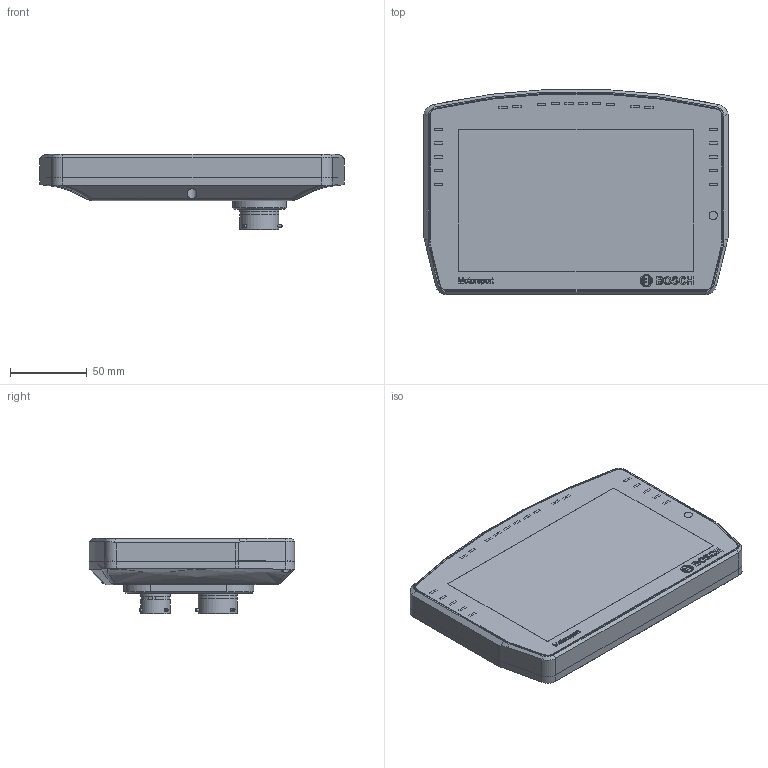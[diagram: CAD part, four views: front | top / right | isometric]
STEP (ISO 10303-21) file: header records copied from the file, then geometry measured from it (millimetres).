
FILE_DESCRIPTION(/* description */ (''),/* implementation_level */ '2;1');
FILE_NAME(/* name */ 'F02UA02659-02.stp',/* time_stamp */ '2021-10-04T11:39:07+02:00',/* author */ (''),/* organization */ (''),/* preprocessor_version */ 'ST-DEVELOPER v16.7',/* originating_system */ 'SIEMENS PLM Software NX 1946',/* authorisation */ '');
FILE_SCHEMA (('AUTOMOTIVE_DESIGN { 1 0 10303 214 3 1 1 1 }'));
Products named in the file (15): f02ue01551_01.001-CONNECTOR; f02ue01659_01.001-CONNECTOR; F02U004605-03.001-FRONT DISC; f02u004318_01.002-DISPLAY FRAME; f02u001067_01.001-SEALING; f02u001065_01.001-SEALING; f02u000950_01.001-COUNTERSUNK-HEAD SCREW; f02u004319_02.001-HOUSING TROUGH; f02u000901_01.001-LENS HEAD SCREW; f02u004158_01.003-STICKER; f02ub00981_01.001-SUBASSEMBLY_SOLID_AGZ; f02ux00123_01.001-CIRCUIT BOARD_SOLID_AGZ; F02UB00982-02.001-SUBASSEMBLY_SOLID_AGZ; F02UV02659-02.001-DISPLAY_SOLID_AGZ; F02UA02659-02.001-DISPLAY
Assembly tree (25 placements, depth 5):
  F02UA02659-02.001-DISPLAY
    F02UV02659-02.001-DISPLAY_SOLID_AGZ
      f02u004158_01.003-STICKER
      f02u000901_01.001-LENS HEAD SCREW  x9
      F02UB00982-02.001-SUBASSEMBLY_SOLID_AGZ
        f02u004319_02.001-HOUSING TROUGH
        f02ux00123_01.001-CIRCUIT BOARD_SOLID_AGZ
          f02ue01659_01.001-CONNECTOR
          f02ue01551_01.001-CONNECTOR
        f02u000950_01.001-COUNTERSUNK-HEAD SCREW  x4
        f02u001065_01.001-SEALING
        f02u001067_01.001-SEALING
      f02ub00981_01.001-SUBASSEMBLY_SOLID_AGZ
        f02u004318_01.002-DISPLAY FRAME
        F02U004605-03.001-FRONT DISC
Bounding box: 198 x 133.49 x 49.13 mm (x, y, z)
Volume: 162359.8 mm3; surface area: 170019.1 mm2
Topology: 46 solids, 46 shells, 1916 faces, 4359 edges, 2823 vertices
Faces by surface type: cylinder 767, plane 716, cone 172, bspline 112, extrusion 80, torus 52, sphere 17
Full cylindrical faces by diameter (mm): 0.5 x22, 0.7 x55, 0.74 x44, 0.788 x13, 1 x2, 1.25 x110, 2 x6, 2.5 x19, 3 x15, 3.2 x10, 3.3 x3, 3.4 x9, 5.5 x22, 5.7 x9, 6.4 x9, 6.5 x4, 6.667 x1, 7 x2, 8 x1, 17.44 x1, 18.65 x2, 18.85 x1, 19.05 x2, 20.05 x1, 21.9 x1, 23.77 x1, 25.1 x2, 25.3 x1, 25.4 x2, 26.4 x1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
Entity records: 56203 total; most frequent: CARTESIAN_POINT 13919, DIRECTION 7100, ORIENTED_EDGE 6026, EDGE_CURVE 3013, AXIS2_PLACEMENT_3D 2943, EDGE_LOOP 2609, VERTEX_POINT 2286, FACE_BOUND 1690
